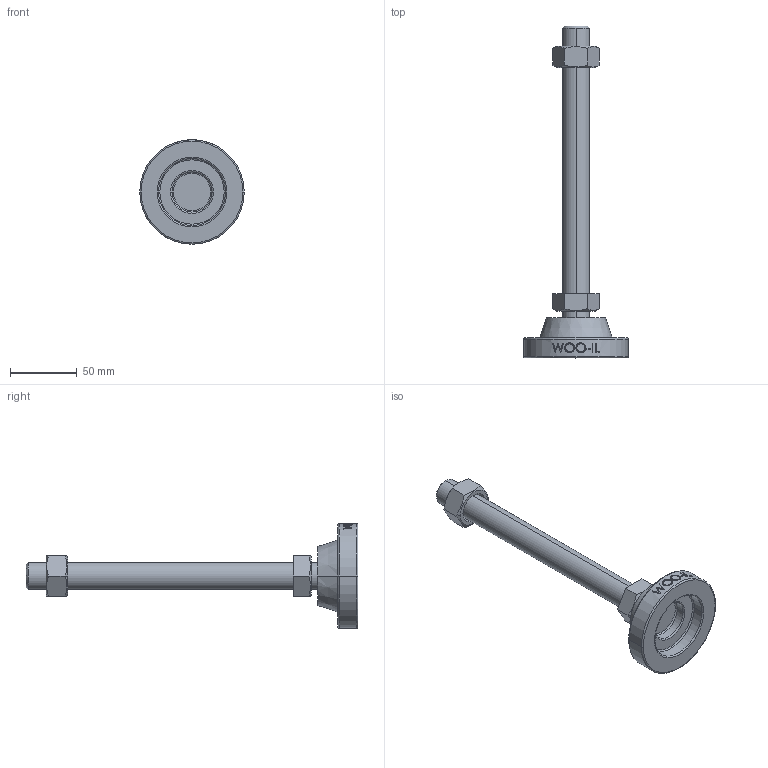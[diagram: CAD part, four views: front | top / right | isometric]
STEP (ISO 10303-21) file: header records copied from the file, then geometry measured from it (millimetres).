
FILE_DESCRIPTION (( 'STEP AP214' ), '1' );
FILE_NAME ('MFU78-M20-200.step', '2021-01-21T06:14:29', ( '' ), ( '' ), 'SwSTEP 2.0', 'SolidWorks 2019', '' );
FILE_SCHEMA (( 'AUTOMOTIVE_DESIGN' ));
Length unit declared in the file: millimetre
Products named in the file (2): MFU78-M20-200
Bounding box: 78 x 248 x 78 mm (x, y, z)
Volume: 156206.1 mm3; surface area: 35224.8 mm2
Topology: 2 solids, 2 shells, 111 faces, 255 edges, 162 vertices
Faces by surface type: plane 49, cylinder 20, bspline 16, cone 14, torus 12
Entity records: 4675 total; most frequent: CARTESIAN_POINT 2214, ORIENTED_EDGE 510, DIRECTION 471, EDGE_CURVE 255, AXIS2_PLACEMENT_3D 185, VERTEX_POINT 162, EDGE_LOOP 127, FACE_OUTER_BOUND 111
